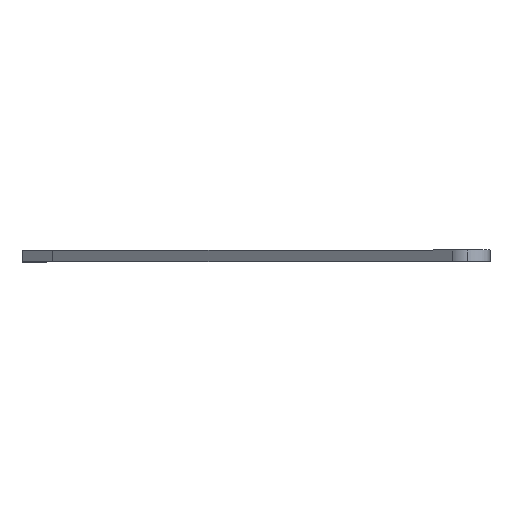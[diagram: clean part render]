
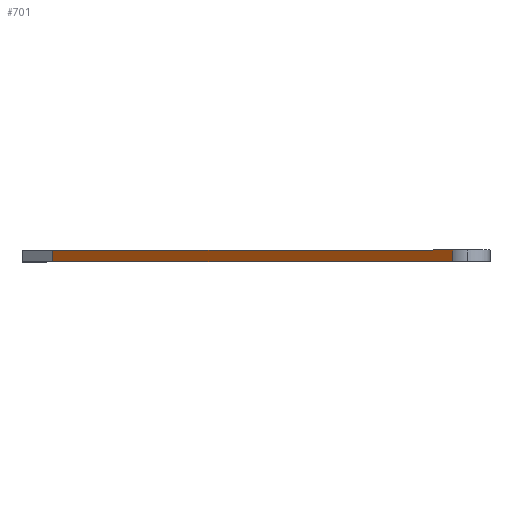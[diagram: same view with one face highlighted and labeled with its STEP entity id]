
A CAD part, top view. The second image highlights one B-rep face of the part: STEP entity #701.
In plain terms, the highlighted planar face has unit normal (-0.626, 0, 0.78).
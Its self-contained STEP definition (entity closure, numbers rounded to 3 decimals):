
#72 = PLANE('',#73);
#73 = AXIS2_PLACEMENT_3D('',#74,#75,#76);
#74 = CARTESIAN_POINT('',(-40.164,-13.,202.219));
#75 = DIRECTION('',(-0.,-1.,-0.));
#76 = DIRECTION('',(0.,0.,-1.));
#126 = PLANE('',#127);
#127 = AXIS2_PLACEMENT_3D('',#128,#129,#130);
#128 = CARTESIAN_POINT('',(-40.164,-3.,202.219));
#129 = DIRECTION('',(-0.,-1.,-0.));
#130 = DIRECTION('',(0.,0.,-1.));
#159 = PLANE('',#160);
#160 = AXIS2_PLACEMENT_3D('',#161,#162,#163);
#161 = CARTESIAN_POINT('',(-206.5,-3.,94.184));
#162 = DIRECTION('',(0.635,0.,-0.773));
#163 = DIRECTION('',(-0.773,0.,-0.635));
#320 = VERTEX_POINT('',#321);
#321 = CARTESIAN_POINT('',(145.48,-3.,376.703));
#356 = EDGE_CURVE('',#320,#357,#359,.T.);
#357 = VERTEX_POINT('',#358);
#358 = CARTESIAN_POINT('',(-206.5,-3.,94.184));
#359 = SURFACE_CURVE('',#360,(#364,#371),.PCURVE_S1.);
#360 = LINE('',#361,#362);
#361 = CARTESIAN_POINT('',(145.483,-3.,376.705));
#362 = VECTOR('',#363,1.);
#363 = DIRECTION('',(-0.78,0.,-0.626));
#364 = PCURVE('',#126,#365);
#365 = DEFINITIONAL_REPRESENTATION('',(#366),#370);
#366 = LINE('',#367,#368);
#367 = CARTESIAN_POINT('',(-174.486,185.647));
#368 = VECTOR('',#369,1.);
#369 = DIRECTION('',(0.626,-0.78));
#370 = ( GEOMETRIC_REPRESENTATION_CONTEXT(2) 
PARAMETRIC_REPRESENTATION_CONTEXT() REPRESENTATION_CONTEXT('2D SPACE',''
  ) );
#371 = PCURVE('',#372,#377);
#372 = PLANE('',#373);
#373 = AXIS2_PLACEMENT_3D('',#374,#375,#376);
#374 = CARTESIAN_POINT('',(145.483,-3.,376.705));
#375 = DIRECTION('',(0.626,0.,-0.78));
#376 = DIRECTION('',(-0.78,0.,-0.626));
#377 = DEFINITIONAL_REPRESENTATION('',(#378),#382);
#378 = LINE('',#379,#380);
#379 = CARTESIAN_POINT('',(0.,0.));
#380 = VECTOR('',#381,1.);
#381 = DIRECTION('',(1.,0.));
#382 = ( GEOMETRIC_REPRESENTATION_CONTEXT(2) 
PARAMETRIC_REPRESENTATION_CONTEXT() REPRESENTATION_CONTEXT('2D SPACE',''
  ) );
#505 = VERTEX_POINT('',#506);
#506 = CARTESIAN_POINT('',(145.48,-13.,376.703));
#541 = EDGE_CURVE('',#505,#542,#544,.T.);
#542 = VERTEX_POINT('',#543);
#543 = CARTESIAN_POINT('',(-206.5,-13.,94.184));
#544 = SURFACE_CURVE('',#545,(#549,#556),.PCURVE_S1.);
#545 = LINE('',#546,#547);
#546 = CARTESIAN_POINT('',(145.483,-13.,376.705));
#547 = VECTOR('',#548,1.);
#548 = DIRECTION('',(-0.78,0.,-0.626));
#549 = PCURVE('',#72,#550);
#550 = DEFINITIONAL_REPRESENTATION('',(#551),#555);
#551 = LINE('',#552,#553);
#552 = CARTESIAN_POINT('',(-174.486,185.647));
#553 = VECTOR('',#554,1.);
#554 = DIRECTION('',(0.626,-0.78));
#555 = ( GEOMETRIC_REPRESENTATION_CONTEXT(2) 
PARAMETRIC_REPRESENTATION_CONTEXT() REPRESENTATION_CONTEXT('2D SPACE',''
  ) );
#556 = PCURVE('',#372,#557);
#557 = DEFINITIONAL_REPRESENTATION('',(#558),#562);
#558 = LINE('',#559,#560);
#559 = CARTESIAN_POINT('',(-0.,-10.));
#560 = VECTOR('',#561,1.);
#561 = DIRECTION('',(1.,0.));
#562 = ( GEOMETRIC_REPRESENTATION_CONTEXT(2) 
PARAMETRIC_REPRESENTATION_CONTEXT() REPRESENTATION_CONTEXT('2D SPACE',''
  ) );
#648 = EDGE_CURVE('',#357,#542,#649,.T.);
#649 = SURFACE_CURVE('',#650,(#654,#661),.PCURVE_S1.);
#650 = LINE('',#651,#652);
#651 = CARTESIAN_POINT('',(-206.5,-3.,94.184));
#652 = VECTOR('',#653,1.);
#653 = DIRECTION('',(0.,-1.,0.));
#654 = PCURVE('',#159,#655);
#655 = DEFINITIONAL_REPRESENTATION('',(#656),#660);
#656 = LINE('',#657,#658);
#657 = CARTESIAN_POINT('',(0.,0.));
#658 = VECTOR('',#659,1.);
#659 = DIRECTION('',(-0.,-1.));
#660 = ( GEOMETRIC_REPRESENTATION_CONTEXT(2) 
PARAMETRIC_REPRESENTATION_CONTEXT() REPRESENTATION_CONTEXT('2D SPACE',''
  ) );
#661 = PCURVE('',#372,#662);
#662 = DEFINITIONAL_REPRESENTATION('',(#663),#667);
#663 = LINE('',#664,#665);
#664 = CARTESIAN_POINT('',(451.343,0.));
#665 = VECTOR('',#666,1.);
#666 = DIRECTION('',(-0.,-1.));
#667 = ( GEOMETRIC_REPRESENTATION_CONTEXT(2) 
PARAMETRIC_REPRESENTATION_CONTEXT() REPRESENTATION_CONTEXT('2D SPACE',''
  ) );
#701 = ADVANCED_FACE('',(#702),#372,.F.);
#702 = FACE_BOUND('',#703,.F.);
#703 = EDGE_LOOP('',(#704,#705,#729,#730));
#704 = ORIENTED_EDGE('',*,*,#356,.F.);
#705 = ORIENTED_EDGE('',*,*,#706,.F.);
#706 = EDGE_CURVE('',#505,#320,#707,.T.);
#707 = SURFACE_CURVE('',#708,(#712,#718),.PCURVE_S1.);
#708 = LINE('',#709,#710);
#709 = CARTESIAN_POINT('',(145.48,-13.,376.703));
#710 = VECTOR('',#711,1.);
#711 = DIRECTION('',(0.,1.,0.));
#712 = PCURVE('',#372,#713);
#713 = DEFINITIONAL_REPRESENTATION('',(#714),#717);
#714 = B_SPLINE_CURVE_WITH_KNOTS('',1,(#715,#716),.UNSPECIFIED.,.F.,.F.,
  (2,2),(0.,10.),.PIECEWISE_BEZIER_KNOTS.);
#715 = CARTESIAN_POINT('',(0.004,-10.));
#716 = CARTESIAN_POINT('',(0.004,0.));
#717 = ( GEOMETRIC_REPRESENTATION_CONTEXT(2) 
PARAMETRIC_REPRESENTATION_CONTEXT() REPRESENTATION_CONTEXT('2D SPACE',''
  ) );
#718 = PCURVE('',#719,#724);
#719 = CYLINDRICAL_SURFACE('',#720,20.025);
#720 = AXIS2_PLACEMENT_3D('',#721,#722,#723);
#721 = CARTESIAN_POINT('',(158.477,-13.,361.469));
#722 = DIRECTION('',(0.,1.,0.));
#723 = DIRECTION('',(0.,-0.,1.));
#724 = DEFINITIONAL_REPRESENTATION('',(#725),#728);
#725 = B_SPLINE_CURVE_WITH_KNOTS('',1,(#726,#727),.UNSPECIFIED.,.F.,.F.,
  (2,2),(0.,10.),.PIECEWISE_BEZIER_KNOTS.);
#726 = CARTESIAN_POINT('',(5.577,0.));
#727 = CARTESIAN_POINT('',(5.577,10.));
#728 = ( GEOMETRIC_REPRESENTATION_CONTEXT(2) 
PARAMETRIC_REPRESENTATION_CONTEXT() REPRESENTATION_CONTEXT('2D SPACE',''
  ) );
#729 = ORIENTED_EDGE('',*,*,#541,.T.);
#730 = ORIENTED_EDGE('',*,*,#648,.F.);
